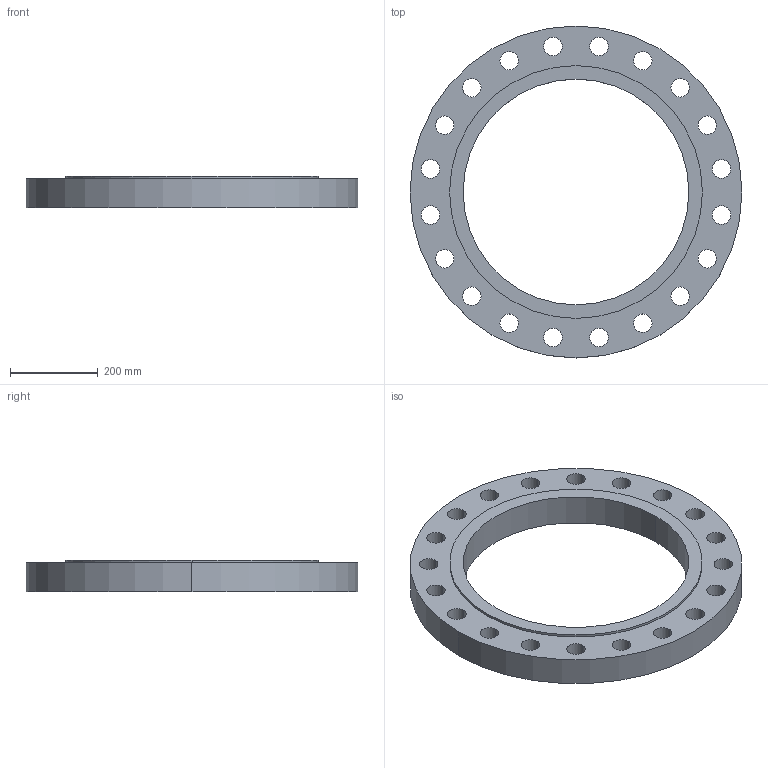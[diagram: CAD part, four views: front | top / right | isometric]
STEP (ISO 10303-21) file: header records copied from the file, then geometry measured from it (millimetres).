
FILE_DESCRIPTION (( 'STEP AP214' ), '1' );
FILE_NAME ('PN40 DN500 Type 01 - Type E Face.STEP', '2018-12-29T01:38:10', ( '' ), ( '' ), 'SwSTEP 2.0', 'SolidWorks 2019', '' );
FILE_SCHEMA (( 'AUTOMOTIVE_DESIGN' ));
Length unit declared in the file: millimetre
Products named in the file (1): PN40 DN500 Type 01 - Type E Face
Bounding box: 755 x 755 x 72 mm (x, y, z)
Volume: 14446502.3 mm3; surface area: 885091.5 mm2
Topology: 1 solids, 1 shells, 49 faces, 138 edges, 92 vertices
Faces by surface type: cylinder 46, plane 3
Entity records: 1762 total; most frequent: DIRECTION 330, CARTESIAN_POINT 280, ORIENTED_EDGE 276, AXIS2_PLACEMENT_3D 142, EDGE_CURVE 138, CIRCLE 92, VERTEX_POINT 92, EDGE_LOOP 92
